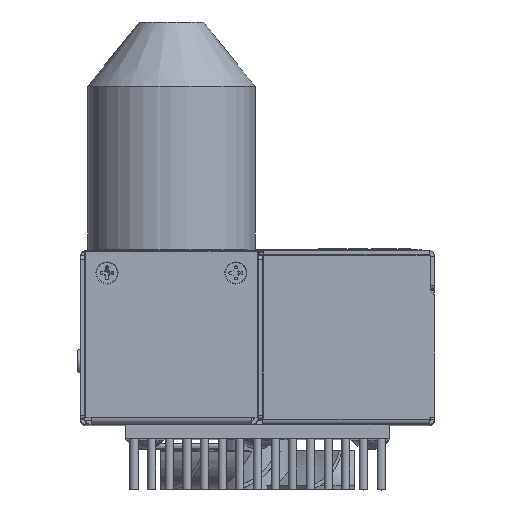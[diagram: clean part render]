
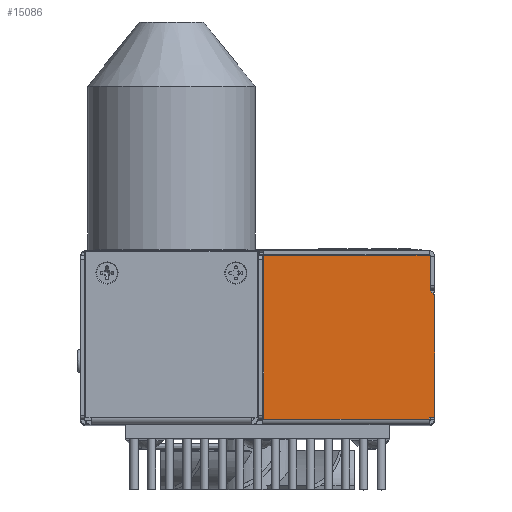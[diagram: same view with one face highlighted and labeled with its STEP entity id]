
A CAD part, top view. The second image highlights one B-rep face of the part: STEP entity #15086.
In plain terms, the highlighted planar face has unit normal (0, 0, 1).
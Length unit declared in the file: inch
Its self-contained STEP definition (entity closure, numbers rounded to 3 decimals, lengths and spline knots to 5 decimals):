
#1524 = VECTOR ( 'NONE', #137927, 39.37008 ) ;
#3369 = DIRECTION ( 'NONE',  ( -1., 0., 0. ) ) ;
#3506 = ORIENTED_EDGE ( 'NONE', *, *, #37123, .F. ) ;
#3702 = EDGE_CURVE ( 'NONE', #63787, #104053, #36737, .T. ) ;
#11174 = LINE ( 'NONE', #105540, #91708 ) ;
#13967 = ORIENTED_EDGE ( 'NONE', *, *, #134712, .T. ) ;
#15086 = ADVANCED_FACE ( 'NONE', ( #47660 ), #59162, .F. ) ;
#17669 = CARTESIAN_POINT ( 'NONE',  ( -5.74054, 6.15513, 0. ) ) ;
#19001 = LINE ( 'NONE', #61256, #111741 ) ;
#19148 = DIRECTION ( 'NONE',  ( 0., 1., 0. ) ) ;
#22160 = CARTESIAN_POINT ( 'NONE',  ( -5.74005, 7.10114, 0. ) ) ;
#22657 = EDGE_CURVE ( 'NONE', #93492, #23416, #19001, .T. ) ;
#23416 = VERTEX_POINT ( 'NONE', #99726 ) ;
#23971 = EDGE_CURVE ( 'NONE', #63666, #97081, #79777, .T. ) ;
#24936 = CARTESIAN_POINT ( 'NONE',  ( -5.73505, 7.42714, 0. ) ) ;
#29032 = DIRECTION ( 'NONE',  ( 0., 0., 1. ) ) ;
#32939 = CARTESIAN_POINT ( 'NONE',  ( -5.69933, 7.10592, 0. ) ) ;
#36737 = LINE ( 'NONE', #76370, #112741 ) ;
#37123 = EDGE_CURVE ( 'NONE', #114225, #153442, #11174, .T. ) ;
#37464 = AXIS2_PLACEMENT_3D ( 'NONE', #22160, #128028, #129731 ) ;
#46196 = ORIENTED_EDGE ( 'NONE', *, *, #22657, .F. ) ;
#46542 = EDGE_CURVE ( 'NONE', #114225, #80937, #86717, .T. ) ;
#47660 = FACE_OUTER_BOUND ( 'NONE', #74033, .T. ) ;
#48487 = CARTESIAN_POINT ( 'NONE',  ( -5.74054, 6.17049, 0. ) ) ;
#49849 = CARTESIAN_POINT ( 'NONE',  ( -7.02605, 7.42714, 0. ) ) ;
#57545 = ORIENTED_EDGE ( 'NONE', *, *, #113029, .T. ) ;
#59162 = PLANE ( 'NONE',  #78546 ) ;
#61256 = CARTESIAN_POINT ( 'NONE',  ( -5.73505, 7.43214, 0. ) ) ;
#61999 = ORIENTED_EDGE ( 'NONE', *, *, #3702, .F. ) ;
#63460 = CARTESIAN_POINT ( 'NONE',  ( -5.69905, 7.43214, 0. ) ) ;
#63666 = VERTEX_POINT ( 'NONE', #162067 ) ;
#63787 = VERTEX_POINT ( 'NONE', #130176 ) ;
#70698 = LINE ( 'NONE', #110446, #157424 ) ;
#74033 = EDGE_LOOP ( 'NONE', ( #46196, #13967, #61999, #57545, #3506, #171613, #96591, #170375, #173254, #133571 ) ) ;
#76370 = CARTESIAN_POINT ( 'NONE',  ( -7.02605, 6.15513, 0. ) ) ;
#76823 = CIRCLE ( 'NONE', #37464, 0.041 ) ;
#78546 = AXIS2_PLACEMENT_3D ( 'NONE', #63460, #89917, #145480 ) ;
#79777 = LINE ( 'NONE', #106278, #153215 ) ;
#80937 = VERTEX_POINT ( 'NONE', #89498 ) ;
#86717 = LINE ( 'NONE', #137052, #1524 ) ;
#89498 = CARTESIAN_POINT ( 'NONE',  ( -5.69933, 6.17049, 0. ) ) ;
#89917 = DIRECTION ( 'NONE',  ( 0., 0., -1. ) ) ;
#91708 = VECTOR ( 'NONE', #130266, 39.37008 ) ;
#93492 = VERTEX_POINT ( 'NONE', #24936 ) ;
#95963 = CARTESIAN_POINT ( 'NONE',  ( -5.72505, 7.15826, 0. ) ) ;
#96591 = ORIENTED_EDGE ( 'NONE', *, *, #170549, .F. ) ;
#97081 = VERTEX_POINT ( 'NONE', #118155 ) ;
#98327 = VERTEX_POINT ( 'NONE', #32939 ) ;
#99726 = CARTESIAN_POINT ( 'NONE',  ( -5.73505, 7.15826, 0. ) ) ;
#104053 = VERTEX_POINT ( 'NONE', #49849 ) ;
#104379 = VECTOR ( 'NONE', #104523, 39.37008 ) ;
#104523 = DIRECTION ( 'NONE',  ( -1., 0., 0. ) ) ;
#105540 = CARTESIAN_POINT ( 'NONE',  ( -5.74054, 7.43214, 0. ) ) ;
#106278 = CARTESIAN_POINT ( 'NONE',  ( -5.85605, 7.27513, 0. ) ) ;
#109560 = DIRECTION ( 'NONE',  ( 0., -1., 0. ) ) ;
#110446 = CARTESIAN_POINT ( 'NONE',  ( -5.69933, 7.43214, 0. ) ) ;
#111741 = VECTOR ( 'NONE', #115072, 39.37008 ) ;
#112741 = VECTOR ( 'NONE', #19148, 39.37008 ) ;
#113029 = EDGE_CURVE ( 'NONE', #63787, #153442, #162547, .T. ) ;
#114225 = VERTEX_POINT ( 'NONE', #48487 ) ;
#115072 = DIRECTION ( 'NONE',  ( 0., -1., 0. ) ) ;
#117749 = DIRECTION ( 'NONE',  ( 0.707, -0.707, 0. ) ) ;
#117767 = CARTESIAN_POINT ( 'NONE',  ( -5.69905, 7.42714, 0. ) ) ;
#118155 = CARTESIAN_POINT ( 'NONE',  ( -5.71105, 7.13013, 0. ) ) ;
#120466 = VECTOR ( 'NONE', #121102, 39.37008 ) ;
#121102 = DIRECTION ( 'NONE',  ( 1., 0., 0. ) ) ;
#128028 = DIRECTION ( 'NONE',  ( 0., 0., -1. ) ) ;
#129731 = DIRECTION ( 'NONE',  ( -1., 0., 0. ) ) ;
#130176 = CARTESIAN_POINT ( 'NONE',  ( -7.02605, 6.15513, 0. ) ) ;
#130266 = DIRECTION ( 'NONE',  ( 0., -1., 0. ) ) ;
#133571 = ORIENTED_EDGE ( 'NONE', *, *, #147600, .F. ) ;
#134712 = EDGE_CURVE ( 'NONE', #93492, #104053, #157488, .T. ) ;
#137052 = CARTESIAN_POINT ( 'NONE',  ( -5.69905, 6.17049, 0. ) ) ;
#137927 = DIRECTION ( 'NONE',  ( 1., 0., 0. ) ) ;
#145480 = DIRECTION ( 'NONE',  ( -1., 0., 0. ) ) ;
#147600 = EDGE_CURVE ( 'NONE', #23416, #63666, #156512, .T. ) ;
#153215 = VECTOR ( 'NONE', #117749, 39.37008 ) ;
#153442 = VERTEX_POINT ( 'NONE', #17669 ) ;
#156512 = CIRCLE ( 'NONE', #164938, 0.01 ) ;
#157424 = VECTOR ( 'NONE', #109560, 39.37008 ) ;
#157488 = LINE ( 'NONE', #117767, #104379 ) ;
#162067 = CARTESIAN_POINT ( 'NONE',  ( -5.73212, 7.15119, 0. ) ) ;
#162163 = EDGE_CURVE ( 'NONE', #97081, #98327, #76823, .T. ) ;
#162547 = LINE ( 'NONE', #163413, #120466 ) ;
#163413 = CARTESIAN_POINT ( 'NONE',  ( -5.74054, 6.15513, 0. ) ) ;
#164938 = AXIS2_PLACEMENT_3D ( 'NONE', #95963, #29032, #3369 ) ;
#170375 = ORIENTED_EDGE ( 'NONE', *, *, #162163, .F. ) ;
#170549 = EDGE_CURVE ( 'NONE', #98327, #80937, #70698, .T. ) ;
#171613 = ORIENTED_EDGE ( 'NONE', *, *, #46542, .T. ) ;
#173254 = ORIENTED_EDGE ( 'NONE', *, *, #23971, .F. ) ;
